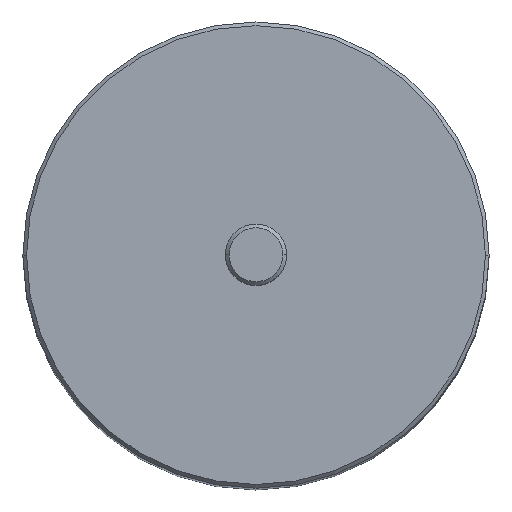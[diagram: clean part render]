
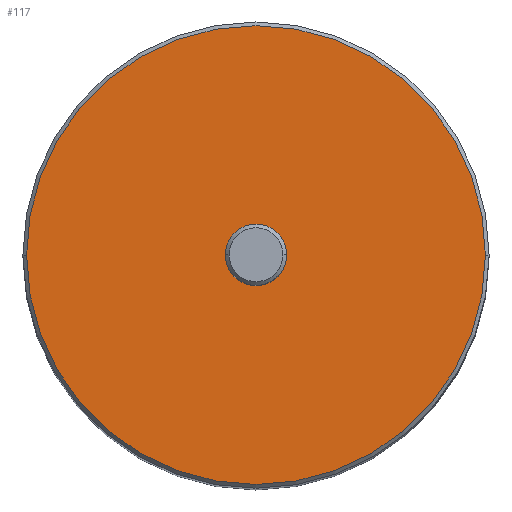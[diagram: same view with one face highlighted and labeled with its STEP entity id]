
A CAD part, top view. The second image highlights one B-rep face of the part: STEP entity #117.
In plain terms, the highlighted planar face has unit normal (0, 0, 1).
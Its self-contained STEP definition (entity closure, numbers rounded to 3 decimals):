
#29 = FACE_OUTER_BOUND ( 'NONE', #215, .T. ) ;
#36 = AXIS2_PLACEMENT_3D ( 'NONE', #114, #357, #488 ) ;
#71 = CARTESIAN_POINT ( 'NONE',  ( 0., 0., 85. ) ) ;
#98 = EDGE_CURVE ( 'NONE', #370, #455, #139, .T. ) ;
#114 = CARTESIAN_POINT ( 'NONE',  ( 0., 0., 85. ) ) ;
#115 = EDGE_CURVE ( 'NONE', #146, #119, #386, .T. ) ;
#117 = ADVANCED_FACE ( 'NONE', ( #29, #164 ), #348, .T. ) ;
#119 = VERTEX_POINT ( 'NONE', #263 ) ;
#129 = AXIS2_PLACEMENT_3D ( 'NONE', #397, #435, #528 ) ;
#139 = CIRCLE ( 'NONE', #129, 18.7 ) ;
#145 = CARTESIAN_POINT ( 'NONE',  ( 0., 0., 85. ) ) ;
#146 = VERTEX_POINT ( 'NONE', #180 ) ;
#154 = CARTESIAN_POINT ( 'NONE',  ( 18.7, 0., 85. ) ) ;
#156 = CARTESIAN_POINT ( 'NONE',  ( -18.7, 0., 85. ) ) ;
#164 = FACE_BOUND ( 'NONE', #381, .T. ) ;
#180 = CARTESIAN_POINT ( 'NONE',  ( 2., 0., 85. ) ) ;
#207 = CIRCLE ( 'NONE', #36, 2. ) ;
#215 = EDGE_LOOP ( 'NONE', ( #567, #236 ) ) ;
#220 = ORIENTED_EDGE ( 'NONE', *, *, #450, .F. ) ;
#229 = DIRECTION ( 'NONE',  ( 0., 0., 1. ) ) ;
#231 = ORIENTED_EDGE ( 'NONE', *, *, #115, .F. ) ;
#236 = ORIENTED_EDGE ( 'NONE', *, *, #98, .T. ) ;
#252 = DIRECTION ( 'NONE',  ( 0., 0., 1. ) ) ;
#263 = CARTESIAN_POINT ( 'NONE',  ( -2., 0., 85. ) ) ;
#276 = AXIS2_PLACEMENT_3D ( 'NONE', #71, #252, #436 ) ;
#299 = EDGE_CURVE ( 'NONE', #455, #370, #485, .T. ) ;
#326 = DIRECTION ( 'NONE',  ( 1., 0., 0. ) ) ;
#343 = AXIS2_PLACEMENT_3D ( 'NONE', #145, #558, #326 ) ;
#348 = PLANE ( 'NONE',  #532 ) ;
#357 = DIRECTION ( 'NONE',  ( 0., 0., 1. ) ) ;
#370 = VERTEX_POINT ( 'NONE', #154 ) ;
#381 = EDGE_LOOP ( 'NONE', ( #220, #231 ) ) ;
#386 = CIRCLE ( 'NONE', #276, 2. ) ;
#397 = CARTESIAN_POINT ( 'NONE',  ( 0., 0., 85. ) ) ;
#435 = DIRECTION ( 'NONE',  ( 0., 0., 1. ) ) ;
#436 = DIRECTION ( 'NONE',  ( 1., 0., 0. ) ) ;
#450 = EDGE_CURVE ( 'NONE', #119, #146, #207, .T. ) ;
#455 = VERTEX_POINT ( 'NONE', #156 ) ;
#485 = CIRCLE ( 'NONE', #343, 18.7 ) ;
#488 = DIRECTION ( 'NONE',  ( 1., 0., 0. ) ) ;
#503 = DIRECTION ( 'NONE',  ( 1., 0., 0. ) ) ;
#528 = DIRECTION ( 'NONE',  ( 1., 0., 0. ) ) ;
#530 = CARTESIAN_POINT ( 'NONE',  ( 0., 0., 85. ) ) ;
#532 = AXIS2_PLACEMENT_3D ( 'NONE', #530, #229, #503 ) ;
#558 = DIRECTION ( 'NONE',  ( 0., 0., 1. ) ) ;
#567 = ORIENTED_EDGE ( 'NONE', *, *, #299, .T. ) ;
